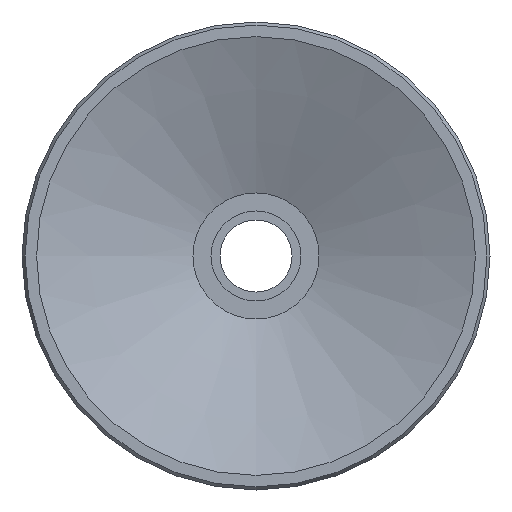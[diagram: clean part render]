
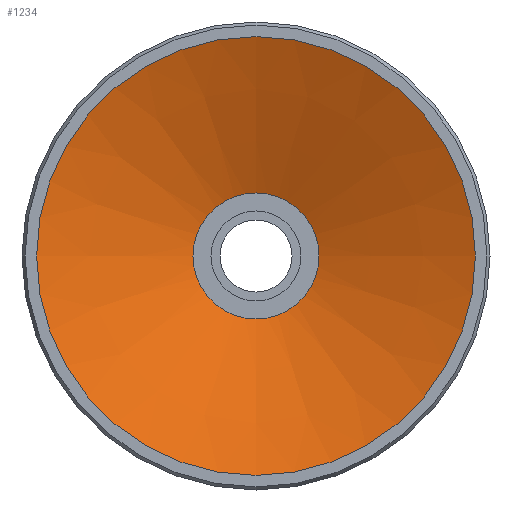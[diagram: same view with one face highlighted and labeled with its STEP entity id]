
A CAD part, front view. The second image highlights one B-rep face of the part: STEP entity #1234.
In plain terms, the highlighted conical face has half-angle 68.057 degrees and reference radius 15.688 mm.
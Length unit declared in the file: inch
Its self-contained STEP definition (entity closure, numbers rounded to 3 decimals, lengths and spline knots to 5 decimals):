
#153 = CIRCLE ( 'NONE', #1173, 0.27559 ) ;
#168 = ORIENTED_EDGE ( 'NONE', *, *, #1407, .F. ) ;
#256 = DIRECTION ( 'NONE',  ( 0., 1., 0. ) ) ;
#443 = FACE_BOUND ( 'NONE', #1325, .T. ) ;
#446 = CARTESIAN_POINT ( 'NONE',  ( 0.27559, 0.27559, 0. ) ) ;
#516 = DIRECTION ( 'NONE',  ( 0., 1., 0. ) ) ;
#641 = DIRECTION ( 'NONE',  ( 1., 0., 0. ) ) ;
#671 = VERTEX_POINT ( 'NONE', #446 ) ;
#683 = AXIS2_PLACEMENT_3D ( 'NONE', #1368, #1354, #793 ) ;
#781 = ORIENTED_EDGE ( 'NONE', *, *, #1419, .T. ) ;
#793 = DIRECTION ( 'NONE',  ( -1., 0., 0. ) ) ;
#828 = CONICAL_SURFACE ( 'NONE', #683, 0.61762, 1.188 ) ;
#882 = CIRCLE ( 'NONE', #1346, 0.95964 ) ;
#924 = FACE_OUTER_BOUND ( 'NONE', #1275, .T. ) ;
#983 = DIRECTION ( 'NONE',  ( 1., 0., 0. ) ) ;
#1173 = AXIS2_PLACEMENT_3D ( 'NONE', #1421, #516, #983 ) ;
#1193 = CARTESIAN_POINT ( 'NONE',  ( 0., 0., 0. ) ) ;
#1210 = VERTEX_POINT ( 'NONE', #1452 ) ;
#1234 = ADVANCED_FACE ( 'NONE', ( #443, #924 ), #828, .F. ) ;
#1275 = EDGE_LOOP ( 'NONE', ( #168 ) ) ;
#1325 = EDGE_LOOP ( 'NONE', ( #781 ) ) ;
#1346 = AXIS2_PLACEMENT_3D ( 'NONE', #1193, #256, #641 ) ;
#1354 = DIRECTION ( 'NONE',  ( 0., -1., 0. ) ) ;
#1368 = CARTESIAN_POINT ( 'NONE',  ( 0., 0.1378, 0. ) ) ;
#1407 = EDGE_CURVE ( 'NONE', #1210, #1210, #882, .T. ) ;
#1419 = EDGE_CURVE ( 'NONE', #671, #671, #153, .T. ) ;
#1421 = CARTESIAN_POINT ( 'NONE',  ( 0., 0.27559, 0. ) ) ;
#1452 = CARTESIAN_POINT ( 'NONE',  ( 0.95964, 0., 0. ) ) ;
